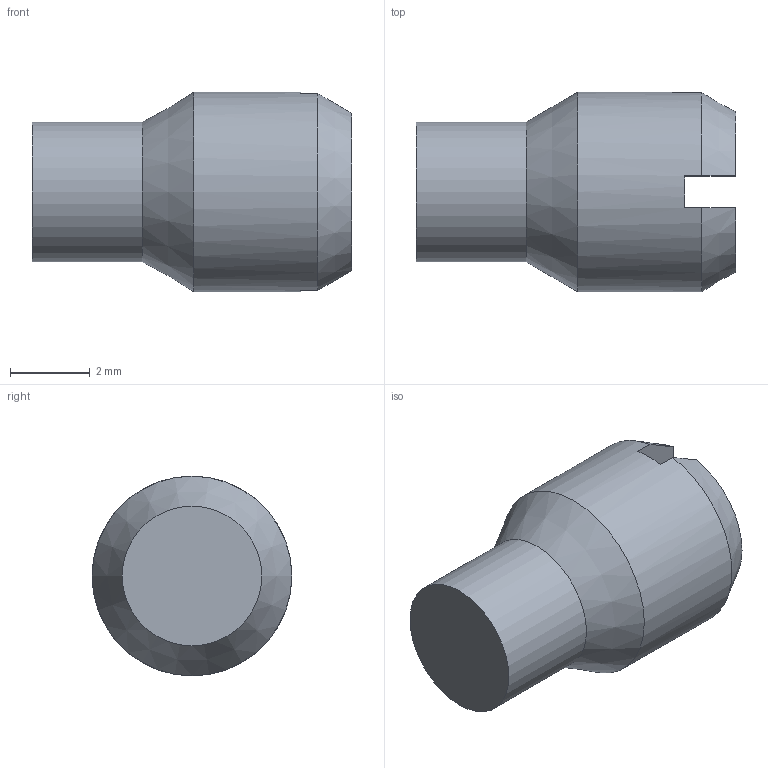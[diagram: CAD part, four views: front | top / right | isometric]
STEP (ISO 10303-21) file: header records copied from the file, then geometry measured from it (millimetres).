
FILE_DESCRIPTION(/* description */ ('Vis sans tête fendues entièrement filetée à téton long'),/* implementation_level */ '2;1');
FILE_NAME(/* name */ 'H:\5-Olympiades\47e\Sujet Régional\Etau\A donner aux candidats\2-Après-Midi\22-ISO 7435 - M5 x 8.stp',/* time_stamp */ '2022-03-30T08:50:02+02:00',/* author */ ('Philippe'),/* organization */ (''),/* preprocessor_version */ 'ST-DEVELOPER v18',/* originating_system */ 'Autodesk Inventor 2020',/* authorisation */ '');
FILE_SCHEMA (('AUTOMOTIVE_DESIGN { 1 0 10303 214 3 1 1 }'));
Length unit declared in the file: millimetre
Products named in the file (1): ISO 7435 - M5 x 8(3)
Bounding box: 8 x 5 x 5 mm (x, y, z)
Volume: 114.8 mm3; surface area: 145.5 mm2
Topology: 1 solids, 1 shells, 11 faces, 28 edges, 19 vertices
Faces by surface type: plane 6, cone 3, cylinder 2
Full cylindrical faces by diameter (mm): 3.5 x1, 5 x1
Entity records: 380 total; most frequent: CARTESIAN_POINT 67, DIRECTION 61, ORIENTED_EDGE 56, EDGE_CURVE 28, AXIS2_PLACEMENT_3D 25, VERTEX_POINT 19, CIRCLE 13, FACE_OUTER_BOUND 11
